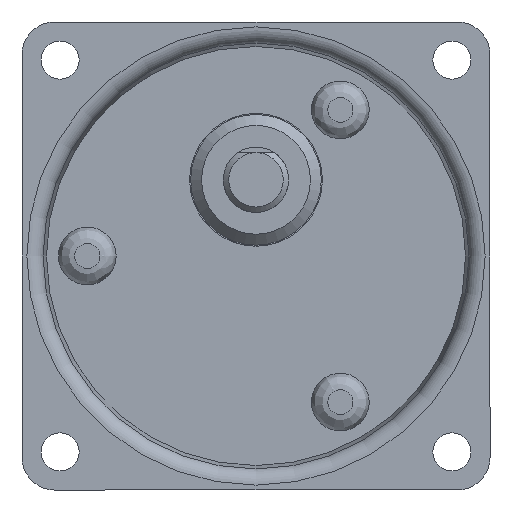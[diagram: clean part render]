
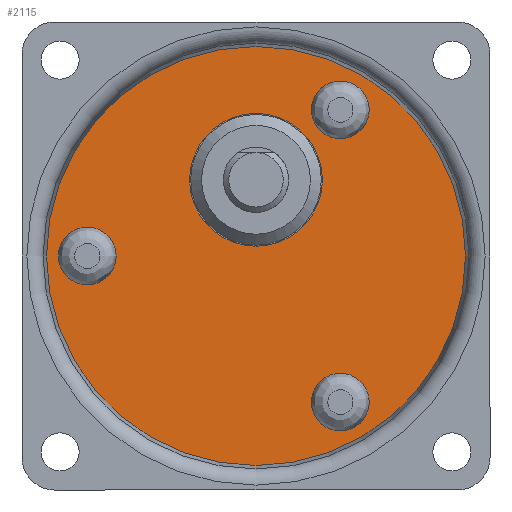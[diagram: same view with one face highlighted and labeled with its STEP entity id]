
A CAD part, front view. The second image highlights one B-rep face of the part: STEP entity #2115.
In plain terms, the highlighted planar face has unit normal (0, -1, 0).
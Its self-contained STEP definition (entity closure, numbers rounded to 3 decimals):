
#1602=CARTESIAN_POINT('',(6.425,3.5,-11.128));
#1603=VERTEX_POINT('',#1602);
#1604=CARTESIAN_POINT('',(7.75,3.5,-13.423));
#1605=DIRECTION('',(0.0,1.0,0.0));
#1606=DIRECTION('',(0.5,0.0,-0.866));
#1607=AXIS2_PLACEMENT_3D('',#1604,#1605,#1606);
#1608=CIRCLE('',#1607,2.65);
#1609=EDGE_CURVE('',#1603,#1603,#1608,.T.);
#1707=CARTESIAN_POINT('',(6.425,3.5,11.128));
#1708=VERTEX_POINT('',#1707);
#1709=CARTESIAN_POINT('',(7.75,3.5,13.423));
#1710=DIRECTION('',(0.0,1.,0.0));
#1711=DIRECTION('',(0.5,0.0,0.866));
#1712=AXIS2_PLACEMENT_3D('',#1709,#1710,#1711);
#1713=CIRCLE('',#1712,2.65);
#1714=EDGE_CURVE('',#1708,#1708,#1713,.T.);
#1812=CARTESIAN_POINT('',(-12.85,3.5,0.));
#1813=VERTEX_POINT('',#1812);
#1814=CARTESIAN_POINT('',(-15.5,3.5,0.0));
#1815=DIRECTION('',(0.0,1.0,0.0));
#1816=DIRECTION('',(-1.0,0.0,0.0));
#1817=AXIS2_PLACEMENT_3D('',#1814,#1815,#1816);
#1818=CIRCLE('',#1817,2.65);
#1819=EDGE_CURVE('',#1813,#1813,#1818,.T.);
#1852=CARTESIAN_POINT('',(6.1,3.5,7.));
#1853=VERTEX_POINT('',#1852);
#1854=CARTESIAN_POINT('',(0.0,3.5,7.));
#1855=DIRECTION('',(0.0,1.0,0.0));
#1856=DIRECTION('',(-1.0,0.0,0.0));
#1857=AXIS2_PLACEMENT_3D('',#1854,#1855,#1856);
#1858=CIRCLE('',#1857,6.1);
#1859=EDGE_CURVE('',#1853,#1853,#1858,.T.);
#1957=CARTESIAN_POINT('',(0.,3.5,-19.25));
#1958=VERTEX_POINT('',#1957);
#1959=CARTESIAN_POINT('',(0.0,3.5,0.0));
#1960=DIRECTION('',(0.0,-1.0,0.0));
#1961=DIRECTION('',(0.0,0.0,1.0));
#1962=AXIS2_PLACEMENT_3D('',#1959,#1960,#1961);
#1963=CIRCLE('',#1962,19.25);
#1964=EDGE_CURVE('',#1958,#1958,#1963,.F.);
#2095=CARTESIAN_POINT('',(0.0,3.5,10.059));
#2096=DIRECTION('',(0.0,1.0,0.0));
#2097=DIRECTION('',(0.0,0.0,1.0));
#2098=AXIS2_PLACEMENT_3D('',#2095,#2096,#2097);
#2099=PLANE('',#2098);
#2100=ORIENTED_EDGE('',*,*,#1964,.F.);
#2101=EDGE_LOOP('',(#2100));
#2102=FACE_OUTER_BOUND('',#2101,.T.);
#2103=ORIENTED_EDGE('',*,*,#1609,.T.);
#2104=EDGE_LOOP('',(#2103));
#2105=FACE_BOUND('',#2104,.T.);
#2106=ORIENTED_EDGE('',*,*,#1714,.T.);
#2107=EDGE_LOOP('',(#2106));
#2108=FACE_BOUND('',#2107,.T.);
#2109=ORIENTED_EDGE('',*,*,#1819,.T.);
#2110=EDGE_LOOP('',(#2109));
#2111=FACE_BOUND('',#2110,.T.);
#2112=ORIENTED_EDGE('',*,*,#1859,.T.);
#2113=EDGE_LOOP('',(#2112));
#2114=FACE_BOUND('',#2113,.T.);
#2115=ADVANCED_FACE('',(#2102,#2105,#2108,#2111,#2114),#2099,.F.);
